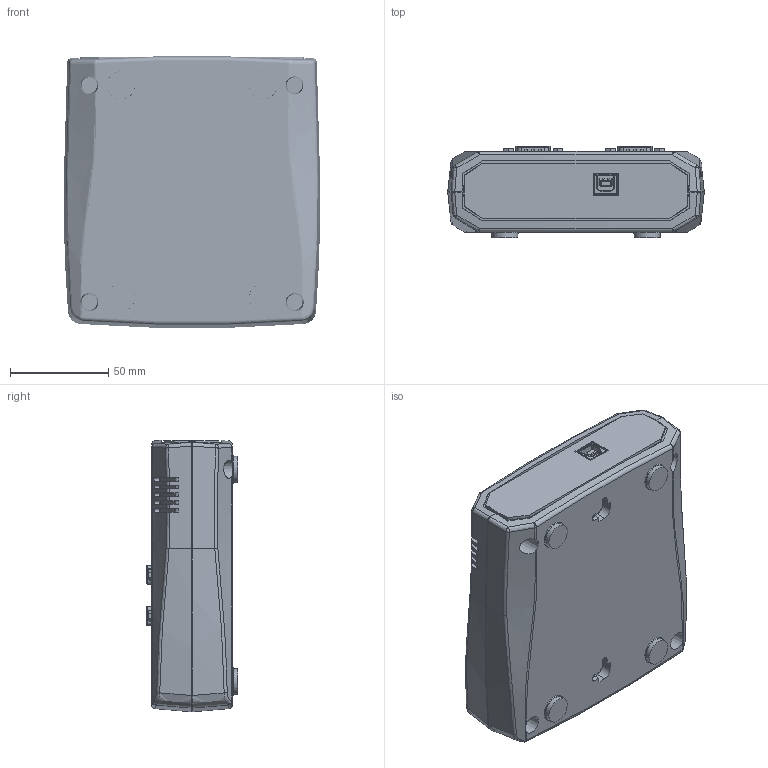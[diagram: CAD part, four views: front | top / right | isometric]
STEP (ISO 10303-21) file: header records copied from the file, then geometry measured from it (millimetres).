
FILE_DESCRIPTION(/* description */ (''),/* implementation_level */ '2;1');
FILE_NAME(/* name */ '/Users/leo/Desktop/Coolgear May/USB-4COM/USB-4COM Model3D LPV1.step',/* time_stamp */ '2021-10-20T16:46:08-04:00',/* author */ (''),/* organization */ (''),/* preprocessor_version */ 'ST-DEVELOPER v18.1',/* originating_system */ 'Autodesk Translation Framework v10.10.0.1391',/* authorisation */ '');
FILE_SCHEMA (('AUTOMOTIVE_DESIGN { 1 0 10303 214 3 1 1 }'));
Products named in the file (1): FusionComponent
Bounding box: 130.57 x 46.45 x 138.24 mm (x, y, z)
Volume: 160112.3 mm3; surface area: 151357.1 mm2
Topology: 37 solids, 38 shells, 3426 faces, 8877 edges, 5508 vertices
Faces by surface type: plane 1690, cylinder 1126, bspline 244, cone 162, sphere 104, torus 100
Full cylindrical faces by diameter (mm): 0.9 x36, 1 x72, 1.5 x36, 2.015 x8, 2.02 x56, 2.845 x56, 2.998 x16, 3 x8, 3.2 x8, 3.5 x9, 3.643 x16, 4.4 x8, 6.5 x3, 13.248 x4
Entity records: 138265 total; most frequent: CARTESIAN_POINT 58038, ORIENTED_EDGE 17282, DIRECTION 15567, EDGE_CURVE 8641, VERTEX_POINT 5508, AXIS2_PLACEMENT_3D 5273, LINE 5021, VECTOR 5021
